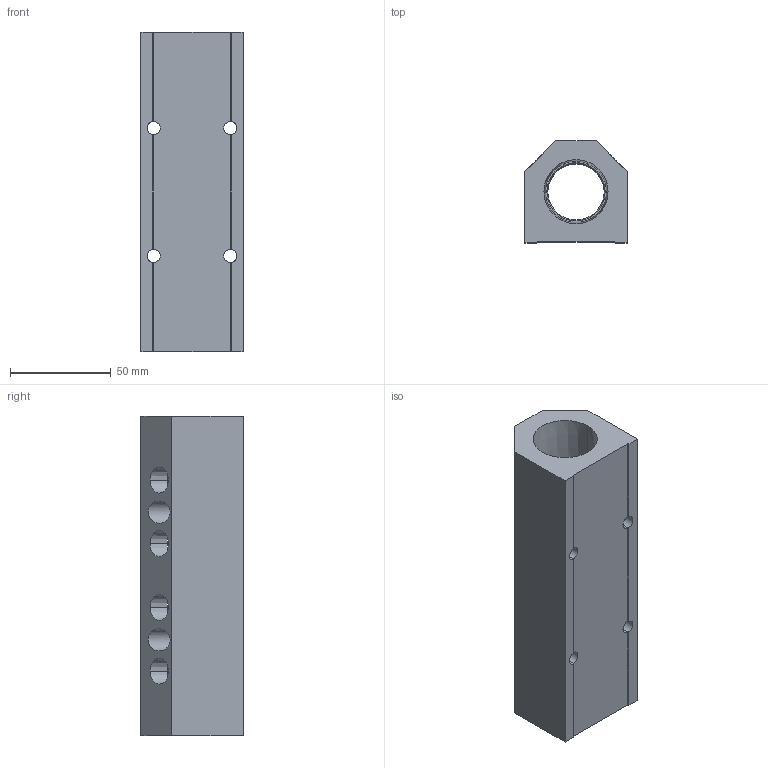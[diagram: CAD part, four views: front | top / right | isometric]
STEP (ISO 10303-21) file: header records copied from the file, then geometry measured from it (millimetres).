
FILE_DESCRIPTION (( 'STEP AP214' ), '1' );
FILE_NAME ('ALM4BCD-N4N16-159B.STEP', '2023-11-02T06:34:30', ( '' ), ( '' ), 'SwSTEP 2.0', 'SolidWorks 2020', '' );
FILE_SCHEMA (( 'AUTOMOTIVE_DESIGN' ));
Length unit declared in the file: millimetre
Products named in the file (1): ALM4BCD-N4N16-159B
Bounding box: 50.8 x 50.8 x 159 mm (x, y, z)
Volume: 239754.3 mm3; surface area: 53274 mm2
Topology: 1 solids, 1 shells, 335 faces, 875 edges, 578 vertices
Faces by surface type: plane 219, bspline 62, cone 32, cylinder 22
Entity records: 18215 total; most frequent: CARTESIAN_POINT 7287, ORIENTED_EDGE 1750, DIRECTION 1327, EDGE_CURVE 875, VECTOR 643, LINE 643, VERTEX_POINT 578, EDGE_LOOP 405
